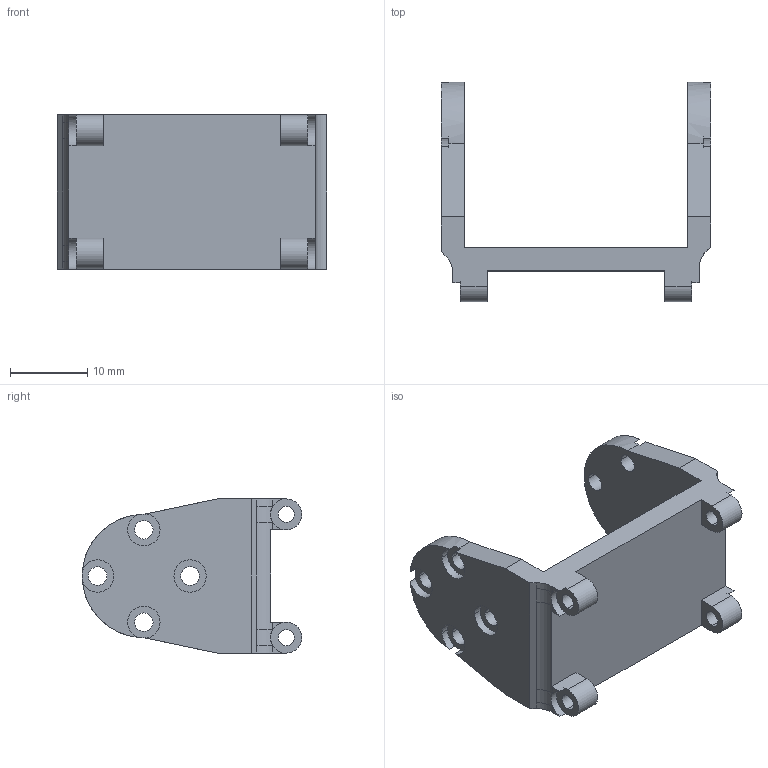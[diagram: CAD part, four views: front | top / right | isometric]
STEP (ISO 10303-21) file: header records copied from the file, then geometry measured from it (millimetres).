
FILE_DESCRIPTION (( 'STEP AP214' ), '1' );
FILE_NAME ('Ring2.STEP', '2026-09-16T05:55:48', ( '' ), ( '' ), 'SwSTEP 2.0', 'SolidWorks 2024', '' );
FILE_SCHEMA (( 'AUTOMOTIVE_DESIGN' ));
Length unit declared in the file: millimetre
Products named in the file (2): 手指4中间连接件; Ring2
Assembly tree (1 placements, depth 2):
  Ring2
    手指4中间连接件
Bounding box: 35 x 28.5 x 20 mm (x, y, z)
Volume: 4067.7 mm3; surface area: 3705.3 mm2
Topology: 1 solids, 1 shells, 96 faces, 272 edges, 180 vertices
Faces by surface type: cylinder 56, plane 38, bspline 2
Entity records: 3329 total; most frequent: CARTESIAN_POINT 620, DIRECTION 592, ORIENTED_EDGE 544, EDGE_CURVE 272, AXIS2_PLACEMENT_3D 224, VERTEX_POINT 180, LINE 144, VECTOR 144
